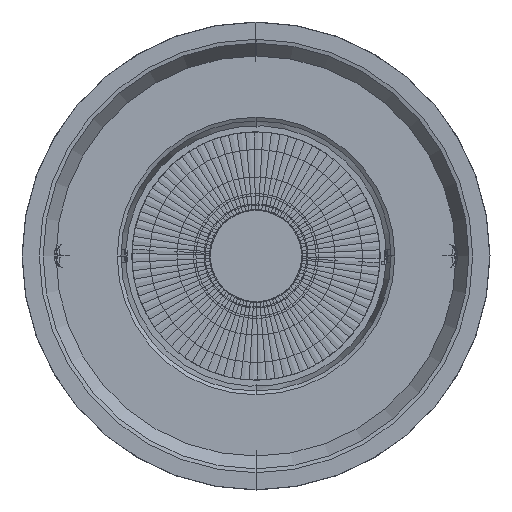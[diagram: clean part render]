
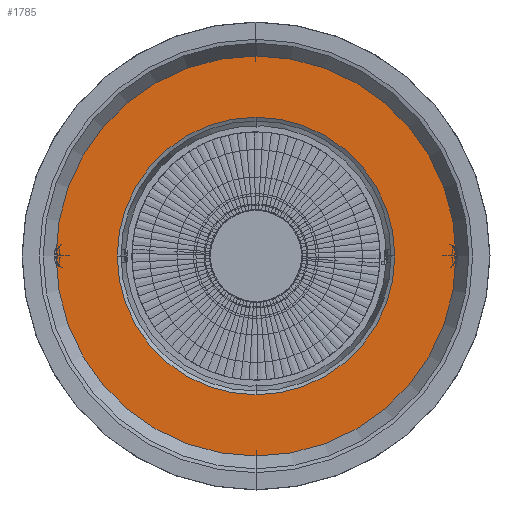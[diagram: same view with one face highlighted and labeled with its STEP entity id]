
A CAD part, front view. The second image highlights one B-rep face of the part: STEP entity #1785.
In plain terms, the highlighted planar face has unit normal (0, -1, 0).
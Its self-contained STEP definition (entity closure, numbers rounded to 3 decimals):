
#799 = VERTEX_POINT ( 'NONE', #24182 ) ;
#1785 = ADVANCED_FACE ( 'NONE', ( #20252, #27267 ), #4013, .F. ) ;
#4013 = PLANE ( 'NONE',  #14425 ) ;
#5646 = CARTESIAN_POINT ( 'NONE',  ( 0., -71.253, 0. ) ) ;
#6207 = ORIENTED_EDGE ( 'NONE', *, *, #28420, .T. ) ;
#13324 = CARTESIAN_POINT ( 'NONE',  ( 0., -71.253, -26.618 ) ) ;
#13853 = DIRECTION ( 'NONE',  ( 0., 1., 0. ) ) ;
#14425 = AXIS2_PLACEMENT_3D ( 'NONE', #17051, #13853, #26873 ) ;
#15302 = AXIS2_PLACEMENT_3D ( 'NONE', #21485, #41351, #34956 ) ;
#15903 = EDGE_LOOP ( 'NONE', ( #6207, #24848 ) ) ;
#16265 = DIRECTION ( 'NONE',  ( 0., 0., 1. ) ) ;
#17051 = CARTESIAN_POINT ( 'NONE',  ( 26., -71.253, 0. ) ) ;
#18696 = DIRECTION ( 'NONE',  ( 0., 1., 0. ) ) ;
#19052 = CIRCLE ( 'NONE', #25854, 38.376 ) ;
#20252 = FACE_BOUND ( 'NONE', #15903, .T. ) ;
#20961 = ORIENTED_EDGE ( 'NONE', *, *, #29765, .F. ) ;
#21485 = CARTESIAN_POINT ( 'NONE',  ( 0., -71.253, 0. ) ) ;
#21846 = AXIS2_PLACEMENT_3D ( 'NONE', #22888, #35514, #16265 ) ;
#22888 = CARTESIAN_POINT ( 'NONE',  ( 0., -71.253, 0. ) ) ;
#23914 = CARTESIAN_POINT ( 'NONE',  ( 0., -71.253, 26.618 ) ) ;
#24182 = CARTESIAN_POINT ( 'NONE',  ( 0., -71.253, 38.376 ) ) ;
#24848 = ORIENTED_EDGE ( 'NONE', *, *, #40658, .T. ) ;
#25854 = AXIS2_PLACEMENT_3D ( 'NONE', #5646, #18696, #35158 ) ;
#26873 = DIRECTION ( 'NONE',  ( 0., 0., 1. ) ) ;
#27181 = DIRECTION ( 'NONE',  ( 0., 1., 0. ) ) ;
#27267 = FACE_OUTER_BOUND ( 'NONE', #41993, .T. ) ;
#28246 = CIRCLE ( 'NONE', #15302, 26.618 ) ;
#28420 = EDGE_CURVE ( 'NONE', #31807, #38898, #34804, .T. ) ;
#29765 = EDGE_CURVE ( 'NONE', #41001, #799, #36892, .T. ) ;
#31807 = VERTEX_POINT ( 'NONE', #13324 ) ;
#32453 = EDGE_CURVE ( 'NONE', #799, #41001, #19052, .T. ) ;
#32788 = AXIS2_PLACEMENT_3D ( 'NONE', #33392, #27181, #40220 ) ;
#33392 = CARTESIAN_POINT ( 'NONE',  ( 0., -71.253, 0. ) ) ;
#34676 = ORIENTED_EDGE ( 'NONE', *, *, #32453, .F. ) ;
#34804 = CIRCLE ( 'NONE', #21846, 26.618 ) ;
#34956 = DIRECTION ( 'NONE',  ( 0., 0., 1. ) ) ;
#35158 = DIRECTION ( 'NONE',  ( 0., 0., 1. ) ) ;
#35514 = DIRECTION ( 'NONE',  ( 0., 1., 0. ) ) ;
#36850 = CARTESIAN_POINT ( 'NONE',  ( 0., -71.253, -38.376 ) ) ;
#36892 = CIRCLE ( 'NONE', #32788, 38.376 ) ;
#38898 = VERTEX_POINT ( 'NONE', #23914 ) ;
#40220 = DIRECTION ( 'NONE',  ( 0., 0., 1. ) ) ;
#40658 = EDGE_CURVE ( 'NONE', #38898, #31807, #28246, .T. ) ;
#41001 = VERTEX_POINT ( 'NONE', #36850 ) ;
#41351 = DIRECTION ( 'NONE',  ( 0., 1., 0. ) ) ;
#41993 = EDGE_LOOP ( 'NONE', ( #20961, #34676 ) ) ;
